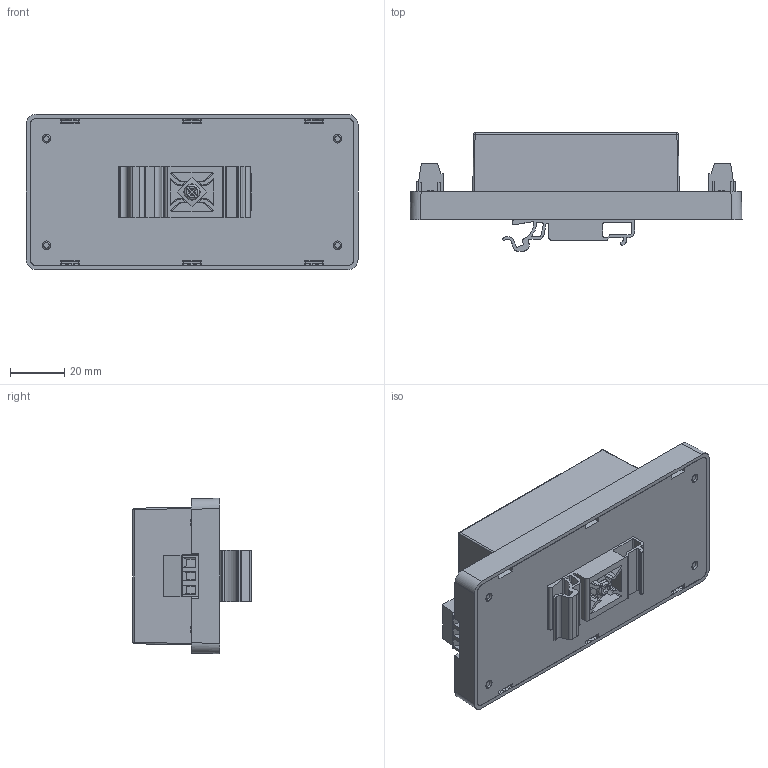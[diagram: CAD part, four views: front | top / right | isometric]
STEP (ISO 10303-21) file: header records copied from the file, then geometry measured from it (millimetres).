
FILE_DESCRIPTION (( 'STEP AP214' ), '1' );
FILE_NAME ('DH15W10-XXDR成品圖(V1.4)-1120717.STEP', '2023-09-06T03:20:14', ( 'cincon' ), ( '' ), 'SwSTEP 2.0', 'SolidWorks 2020', '' );
FILE_SCHEMA (( 'AUTOMOTIVE_DESIGN' ));
Length unit declared in the file: millimetre
Products named in the file (1): DH15W10-XXDR成品圖(V1.4)-1120717
Bounding box: 122.3 x 43.5 x 57.3 mm (x, y, z)
Volume: 57686.2 mm3; surface area: 75077.2 mm2
Topology: 1 solids, 8 shells, 1838 faces, 5176 edges, 3373 vertices
Faces by surface type: plane 1343, cylinder 301, torus 64, cone 61, bspline 57, sphere 12
Entity records: 91152 total; most frequent: CARTESIAN_POINT 24062, ORIENTED_EDGE 10340, DIRECTION 8976, EDGE_CURVE 5170, LINE 3872, VECTOR 3872, VERTEX_POINT 3373, AXIS2_PLACEMENT_3D 2552
